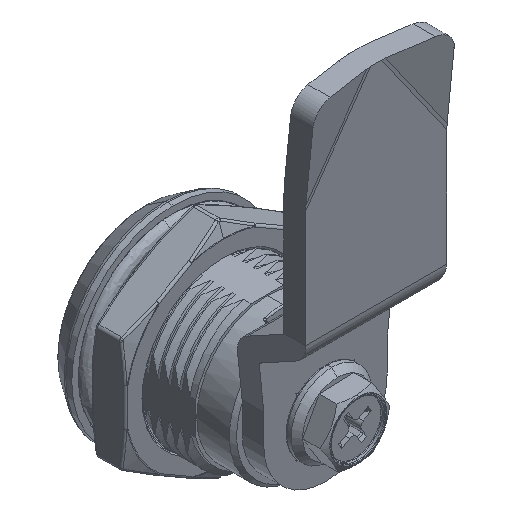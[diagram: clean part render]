
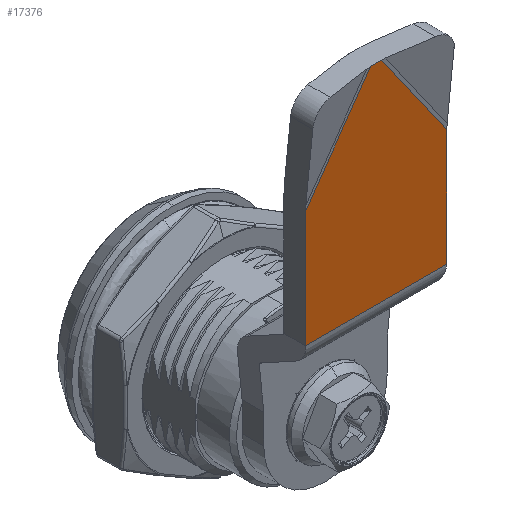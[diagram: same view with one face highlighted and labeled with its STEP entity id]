
A CAD part, isometric view. The second image highlights one B-rep face of the part: STEP entity #17376.
In plain terms, the highlighted planar face has unit normal (0, -1, 0).
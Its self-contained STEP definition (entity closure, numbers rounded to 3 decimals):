
#183 = DIRECTION ( 'NONE',  ( 1., 0., 0. ) ) ;
#386 = LINE ( 'NONE', #55718, #31066 ) ;
#1645 = DIRECTION ( 'NONE',  ( -0.574, 0., 0.819 ) ) ;
#2834 = EDGE_CURVE ( 'NONE', #37213, #3761, #58496, .T. ) ;
#3138 = ORIENTED_EDGE ( 'NONE', *, *, #65333, .F. ) ;
#3173 = DIRECTION ( 'NONE',  ( 1., 0., 0. ) ) ;
#3761 = VERTEX_POINT ( 'NONE', #6485 ) ;
#3881 = CARTESIAN_POINT ( 'NONE',  ( 9.75, -10., 32.176 ) ) ;
#4718 = ORIENTED_EDGE ( 'NONE', *, *, #19942, .T. ) ;
#6184 = CARTESIAN_POINT ( 'NONE',  ( -9.75, -10., 32.176 ) ) ;
#6485 = CARTESIAN_POINT ( 'NONE',  ( -0.771, -10., 45. ) ) ;
#8566 = DIRECTION ( 'NONE',  ( -0.574, 0., -0.819 ) ) ;
#11691 = LINE ( 'NONE', #67018, #27404 ) ;
#12454 = VERTEX_POINT ( 'NONE', #25211 ) ;
#13987 = VERTEX_POINT ( 'NONE', #15564 ) ;
#14023 = CARTESIAN_POINT ( 'NONE',  ( -0.771, -10., 45. ) ) ;
#15564 = CARTESIAN_POINT ( 'NONE',  ( -9.75, -10., 16.115 ) ) ;
#17376 = ADVANCED_FACE ( 'NONE', ( #20258 ), #53036, .T. ) ;
#17999 = CARTESIAN_POINT ( 'NONE',  ( -9.75, -10., 16.115 ) ) ;
#19942 = EDGE_CURVE ( 'NONE', #43480, #37213, #57341, .T. ) ;
#20258 = FACE_OUTER_BOUND ( 'NONE', #36111, .T. ) ;
#20815 = CARTESIAN_POINT ( 'NONE',  ( 0.771, -10., 45. ) ) ;
#22371 = ORIENTED_EDGE ( 'NONE', *, *, #63561, .T. ) ;
#25211 = CARTESIAN_POINT ( 'NONE',  ( 9.75, -10., 16.115 ) ) ;
#27404 = VECTOR ( 'NONE', #50989, 1000. ) ;
#27843 = LINE ( 'NONE', #17999, #46013 ) ;
#28048 = DIRECTION ( 'NONE',  ( 0., 0., 1. ) ) ;
#31066 = VECTOR ( 'NONE', #28048, 1000. ) ;
#32825 = ORIENTED_EDGE ( 'NONE', *, *, #48577, .T. ) ;
#35221 = CARTESIAN_POINT ( 'NONE',  ( -9.75, -10., 45. ) ) ;
#36111 = EDGE_LOOP ( 'NONE', ( #63839, #4718, #63009, #22371, #3138, #32825 ) ) ;
#37213 = VERTEX_POINT ( 'NONE', #20815 ) ;
#37567 = EDGE_CURVE ( 'NONE', #12454, #43480, #11691, .T. ) ;
#40325 = DIRECTION ( 'NONE',  ( -1., 0., 0. ) ) ;
#41695 = LINE ( 'NONE', #14023, #53091 ) ;
#43480 = VERTEX_POINT ( 'NONE', #3881 ) ;
#44157 = DIRECTION ( 'NONE',  ( 0., -1., 0. ) ) ;
#46013 = VECTOR ( 'NONE', #183, 1000. ) ;
#47094 = VECTOR ( 'NONE', #1645, 1000. ) ;
#48577 = EDGE_CURVE ( 'NONE', #13987, #12454, #27843, .T. ) ;
#50989 = DIRECTION ( 'NONE',  ( 0., 0., 1. ) ) ;
#53036 = PLANE ( 'NONE',  #67901 ) ;
#53091 = VECTOR ( 'NONE', #8566, 1000. ) ;
#55718 = CARTESIAN_POINT ( 'NONE',  ( -9.75, -10., 45. ) ) ;
#55721 = VERTEX_POINT ( 'NONE', #6184 ) ;
#57341 = LINE ( 'NONE', #63157, #47094 ) ;
#58496 = LINE ( 'NONE', #35221, #71238 ) ;
#58843 = CARTESIAN_POINT ( 'NONE',  ( -9.75, -10., 45. ) ) ;
#63009 = ORIENTED_EDGE ( 'NONE', *, *, #2834, .T. ) ;
#63157 = CARTESIAN_POINT ( 'NONE',  ( 9.75, -10., 32.176 ) ) ;
#63561 = EDGE_CURVE ( 'NONE', #3761, #55721, #41695, .T. ) ;
#63839 = ORIENTED_EDGE ( 'NONE', *, *, #37567, .T. ) ;
#65333 = EDGE_CURVE ( 'NONE', #13987, #55721, #386, .T. ) ;
#67018 = CARTESIAN_POINT ( 'NONE',  ( 9.75, -10., 45. ) ) ;
#67901 = AXIS2_PLACEMENT_3D ( 'NONE', #58843, #44157, #3173 ) ;
#71238 = VECTOR ( 'NONE', #40325, 1000. ) ;
